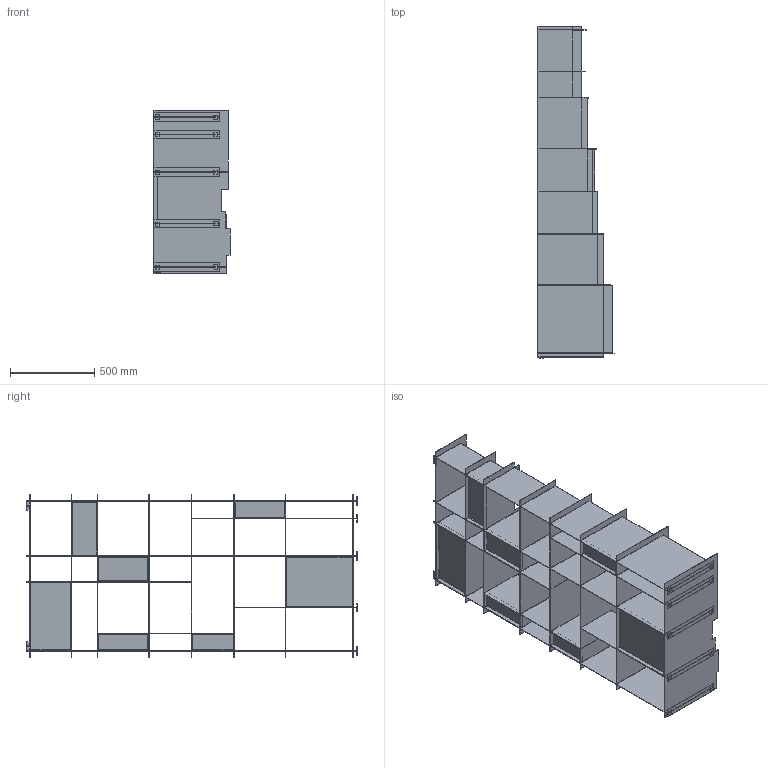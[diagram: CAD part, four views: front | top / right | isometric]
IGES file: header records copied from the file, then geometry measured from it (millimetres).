
Start section: SolidWorks IGES file using analytic representation for surfaces
Global section: file name: \\UTENTI\Dati Utenti\Tecnico\DC\2D - 3D per sito\3D\DeCastelli-3D-Nippon.igs; native system: SolidWorks 2022; preprocessor: SolidWorks 2022; author: Silviad; date: 240711.172611; units: millimetre
Bounding box: 455 x 1968.46 x 972.4 mm (x, y, z)
Surface area: 12250909.4 mm2 (no closed solid volume)
Topology: 0 solids, 0 shells, 415 faces, 4230 edges, 4230 vertices
Faces by surface type: bspline 351, revolution 64
